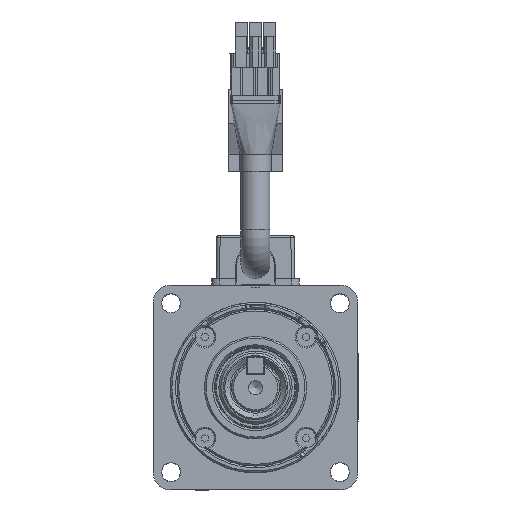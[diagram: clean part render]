
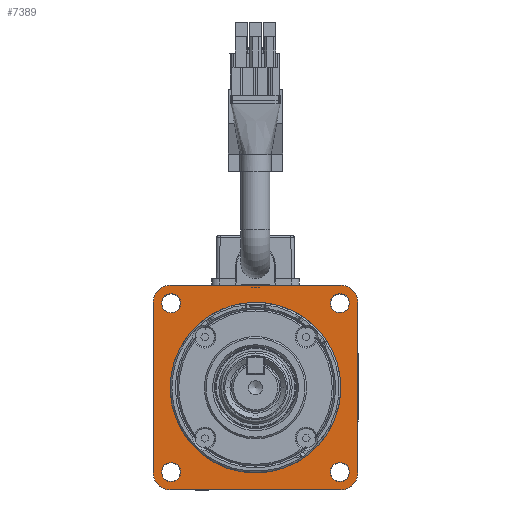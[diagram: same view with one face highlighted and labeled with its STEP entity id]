
A CAD part, front view. The second image highlights one B-rep face of the part: STEP entity #7389.
In plain terms, the highlighted planar face has unit normal (0, -1, 0).
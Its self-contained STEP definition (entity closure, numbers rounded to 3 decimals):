
#7389 = ADVANCED_FACE( '', ( #14658, #14659, #14660, #14661, #14662, #14663 ), #14664, .T. );
#14658 = FACE_OUTER_BOUND( '', #32421, .T. );
#14659 = FACE_BOUND( '', #32422, .T. );
#14660 = FACE_BOUND( '', #32423, .T. );
#14661 = FACE_BOUND( '', #32424, .T. );
#14662 = FACE_BOUND( '', #32425, .T. );
#14663 = FACE_BOUND( '', #32426, .T. );
#14664 = PLANE( '', #32427 );
#32421 = EDGE_LOOP( '', ( #51316, #51317, #51318, #51319, #51320, #51321, #51322, #51323 ) );
#32422 = EDGE_LOOP( '', ( #51324 ) );
#32423 = EDGE_LOOP( '', ( #51325 ) );
#32424 = EDGE_LOOP( '', ( #51326 ) );
#32425 = EDGE_LOOP( '', ( #51327 ) );
#32426 = EDGE_LOOP( '', ( #51328 ) );
#32427 = AXIS2_PLACEMENT_3D( '', #51329, #51330, #51331 );
#51316 = ORIENTED_EDGE( '', *, *, #58886, .F. );
#51317 = ORIENTED_EDGE( '', *, *, #56762, .F. );
#51318 = ORIENTED_EDGE( '', *, *, #57839, .F. );
#51319 = ORIENTED_EDGE( '', *, *, #59117, .F. );
#51320 = ORIENTED_EDGE( '', *, *, #59019, .F. );
#51321 = ORIENTED_EDGE( '', *, *, #57169, .F. );
#51322 = ORIENTED_EDGE( '', *, *, #55223, .F. );
#51323 = ORIENTED_EDGE( '', *, *, #57353, .F. );
#51324 = ORIENTED_EDGE( '', *, *, #57929, .T. );
#51325 = ORIENTED_EDGE( '', *, *, #55037, .T. );
#51326 = ORIENTED_EDGE( '', *, *, #52463, .T. );
#51327 = ORIENTED_EDGE( '', *, *, #54461, .T. );
#51328 = ORIENTED_EDGE( '', *, *, #53849, .F. );
#51329 = CARTESIAN_POINT( '', ( 0., 0.7, 25. ) );
#51330 = DIRECTION( '', ( 0., -1., 0. ) );
#51331 = DIRECTION( '', ( 0., 0., -1. ) );
#52463 = EDGE_CURVE( '', #60453, #60453, #60454, .F. );
#53849 = EDGE_CURVE( '', #62838, #62838, #62839, .T. );
#54461 = EDGE_CURVE( '', #63836, #63836, #63837, .F. );
#55037 = EDGE_CURVE( '', #64737, #64737, #64738, .F. );
#55223 = EDGE_CURVE( '', #65028, #65031, #65032, .F. );
#56762 = EDGE_CURVE( '', #67286, #67288, #67289, .T. );
#57169 = EDGE_CURVE( '', #65031, #67850, #67851, .T. );
#57353 = EDGE_CURVE( '', #68089, #65028, #68091, .T. );
#57839 = EDGE_CURVE( '', #68723, #67286, #68726, .F. );
#57929 = EDGE_CURVE( '', #68844, #68844, #68845, .F. );
#58886 = EDGE_CURVE( '', #67288, #68089, #69969, .F. );
#59019 = EDGE_CURVE( '', #67850, #70110, #70111, .F. );
#59117 = EDGE_CURVE( '', #70110, #68723, #70212, .T. );
#60453 = VERTEX_POINT( '', #71538 );
#60454 = CIRCLE( '', #71539, 2.816 );
#62838 = VERTEX_POINT( '', #76564 );
#62839 = CIRCLE( '', #76565, 25. );
#63836 = VERTEX_POINT( '', #78849 );
#63837 = CIRCLE( '', #78850, 2.816 );
#64737 = VERTEX_POINT( '', #80576 );
#64738 = CIRCLE( '', #80577, 2.816 );
#65028 = VERTEX_POINT( '', #81236 );
#65031 = VERTEX_POINT( '', #81240 );
#65032 = CIRCLE( '', #81241, 5. );
#67286 = VERTEX_POINT( '', #86087 );
#67288 = VERTEX_POINT( '', #86090 );
#67289 = LINE( '', #86091, #86092 );
#67850 = VERTEX_POINT( '', #86955 );
#67851 = LINE( '', #86956, #86957 );
#68089 = VERTEX_POINT( '', #87444 );
#68091 = LINE( '', #87447, #87448 );
#68723 = VERTEX_POINT( '', #88796 );
#68726 = CIRCLE( '', #88800, 5. );
#68844 = VERTEX_POINT( '', #88984 );
#68845 = CIRCLE( '', #88985, 2.816 );
#69969 = CIRCLE( '', #91172, 5. );
#70110 = VERTEX_POINT( '', #91411 );
#70111 = CIRCLE( '', #91412, 5. );
#70212 = LINE( '', #91570, #91571 );
#71538 = CARTESIAN_POINT( '', ( 24.749, 0.7, -27.565 ) );
#71539 = AXIS2_PLACEMENT_3D( '', #92524, #92525, #92526 );
#76564 = CARTESIAN_POINT( '', ( 0., 0.7, -25. ) );
#76565 = AXIS2_PLACEMENT_3D( '', #94004, #94005, #94006 );
#78849 = CARTESIAN_POINT( '', ( -24.749, 0.7, -27.565 ) );
#78850 = AXIS2_PLACEMENT_3D( '', #94672, #94673, #94674 );
#80576 = CARTESIAN_POINT( '', ( 24.749, 0.7, 21.932 ) );
#80577 = AXIS2_PLACEMENT_3D( '', #95306, #95307, #95308 );
#81236 = CARTESIAN_POINT( '', ( 30., 0.7, -25. ) );
#81240 = CARTESIAN_POINT( '', ( 25., 0.7, -30. ) );
#81241 = AXIS2_PLACEMENT_3D( '', #95499, #95500, #95501 );
#86087 = CARTESIAN_POINT( '', ( -25., 0.7, 30. ) );
#86090 = CARTESIAN_POINT( '', ( 25., 0.7, 30. ) );
#86091 = CARTESIAN_POINT( '', ( 30., 0.7, 30. ) );
#86092 = VECTOR( '', #97098, 1000. );
#86955 = CARTESIAN_POINT( '', ( -25., 0.7, -30. ) );
#86956 = CARTESIAN_POINT( '', ( -30., 0.7, -30. ) );
#86957 = VECTOR( '', #97525, 1000. );
#87444 = CARTESIAN_POINT( '', ( 30., 0.7, 25. ) );
#87447 = CARTESIAN_POINT( '', ( 30., 0.7, -30. ) );
#87448 = VECTOR( '', #97720, 1000. );
#88796 = CARTESIAN_POINT( '', ( -30., 0.7, 25. ) );
#88800 = AXIS2_PLACEMENT_3D( '', #98185, #98186, #98187 );
#88984 = CARTESIAN_POINT( '', ( -24.749, 0.7, 21.932 ) );
#88985 = AXIS2_PLACEMENT_3D( '', #98275, #98276, #98277 );
#91172 = AXIS2_PLACEMENT_3D( '', #99043, #99044, #99045 );
#91411 = CARTESIAN_POINT( '', ( -30., 0.7, -25. ) );
#91412 = AXIS2_PLACEMENT_3D( '', #99131, #99132, #99133 );
#91570 = CARTESIAN_POINT( '', ( -30., 0.7, 30. ) );
#91571 = VECTOR( '', #99175, 1000. );
#92524 = CARTESIAN_POINT( '', ( 24.749, 0.7, -24.749 ) );
#92525 = DIRECTION( '', ( 0., -1., 0. ) );
#92526 = DIRECTION( '', ( 0., 0., -1. ) );
#94004 = CARTESIAN_POINT( '', ( 0., 0.7, 0. ) );
#94005 = DIRECTION( '', ( 0., -1., 0. ) );
#94006 = DIRECTION( '', ( 0., 0., -1. ) );
#94672 = CARTESIAN_POINT( '', ( -24.749, 0.7, -24.749 ) );
#94673 = DIRECTION( '', ( 0., -1., 0. ) );
#94674 = DIRECTION( '', ( 0., 0., -1. ) );
#95306 = CARTESIAN_POINT( '', ( 24.749, 0.7, 24.749 ) );
#95307 = DIRECTION( '', ( 0., -1., 0. ) );
#95308 = DIRECTION( '', ( 0., 0., -1. ) );
#95499 = CARTESIAN_POINT( '', ( 25., 0.7, -25. ) );
#95500 = DIRECTION( '', ( 0., -1., 0. ) );
#95501 = DIRECTION( '', ( 0., 0., -1. ) );
#97098 = DIRECTION( '', ( 1., 0., 0. ) );
#97525 = DIRECTION( '', ( -1., 0., 0. ) );
#97720 = DIRECTION( '', ( 0., 0., -1. ) );
#98185 = CARTESIAN_POINT( '', ( -25., 0.7, 25. ) );
#98186 = DIRECTION( '', ( 0., -1., 0. ) );
#98187 = DIRECTION( '', ( 0., 0., -1. ) );
#98275 = CARTESIAN_POINT( '', ( -24.749, 0.7, 24.749 ) );
#98276 = DIRECTION( '', ( 0., -1., 0. ) );
#98277 = DIRECTION( '', ( 0., 0., -1. ) );
#99043 = CARTESIAN_POINT( '', ( 25., 0.7, 25. ) );
#99044 = DIRECTION( '', ( 0., -1., 0. ) );
#99045 = DIRECTION( '', ( 0., 0., -1. ) );
#99131 = CARTESIAN_POINT( '', ( -25., 0.7, -25. ) );
#99132 = DIRECTION( '', ( 0., -1., 0. ) );
#99133 = DIRECTION( '', ( 0., 0., -1. ) );
#99175 = DIRECTION( '', ( 0., 0., 1. ) );
